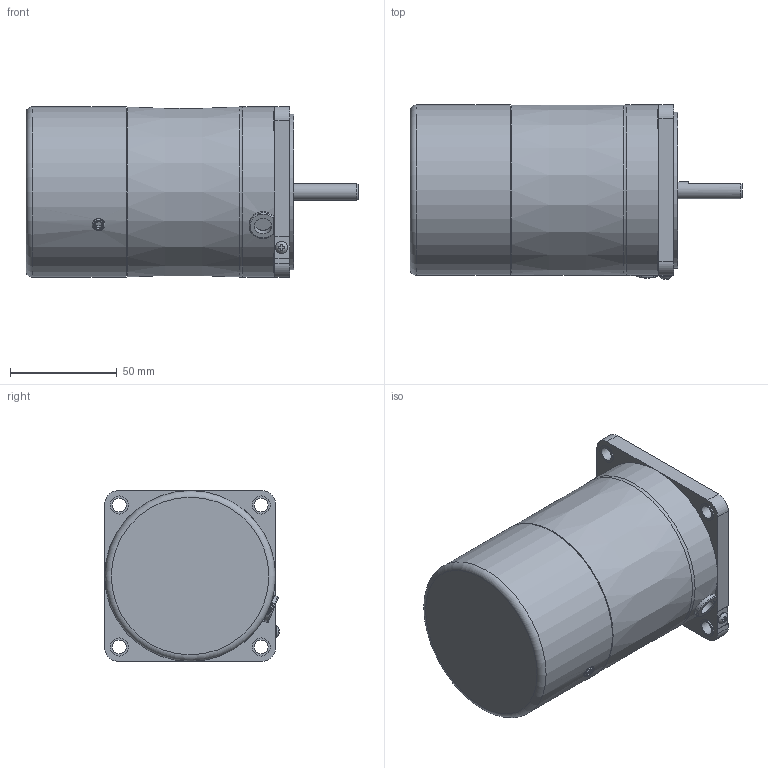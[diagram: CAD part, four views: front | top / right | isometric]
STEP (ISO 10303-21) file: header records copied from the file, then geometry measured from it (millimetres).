
FILE_DESCRIPTION(/* description */ (''),/* implementation_level */ '2;1');
FILE_NAME(/* name */ 'E:\도면작업\2016\0704) 미주향 SG 도면\3D MOTOR\ELECTROMAGNETIC BRAKE\SG8R(I)25D_-E.stp',/* time_stamp */ '2017-03-21T14:18:32+09:00',/* author */ ('jy-jung'),/* organization */ (''),/* preprocessor_version */ 'ST-DEVELOPER v15.6',/* originating_system */ 'Autodesk Inventor 2015',/* authorisation */ '');
FILE_SCHEMA (('AUTOMOTIVE_DESIGN { 1 0 10303 214 3 1 1 }'));
Length unit declared in the file: millimetre
Products named in the file (1): 부품23
Bounding box: 155.5 x 81.76 x 80 mm (x, y, z)
Volume: 622158.1 mm3; surface area: 47756.3 mm2
Topology: 1 solids, 2 shells, 118 faces, 276 edges, 182 vertices
Faces by surface type: plane 71, cylinder 38, torus 6, cone 2, bspline 1
Full cylindrical faces by diameter (mm): 3.1 x1, 4.6 x1, 5 x2, 5.6 x1, 6 x1, 6.5 x4, 8 x2, 8.5 x4, 34 x1, 73 x1, 78 x1, 79.8 x1, 80 x1
Entity records: 3547 total; most frequent: CARTESIAN_POINT 727, DIRECTION 554, ORIENTED_EDGE 492, EDGE_CURVE 246, AXIS2_PLACEMENT_3D 212, VERTEX_POINT 179, EDGE_LOOP 173, LINE 130
